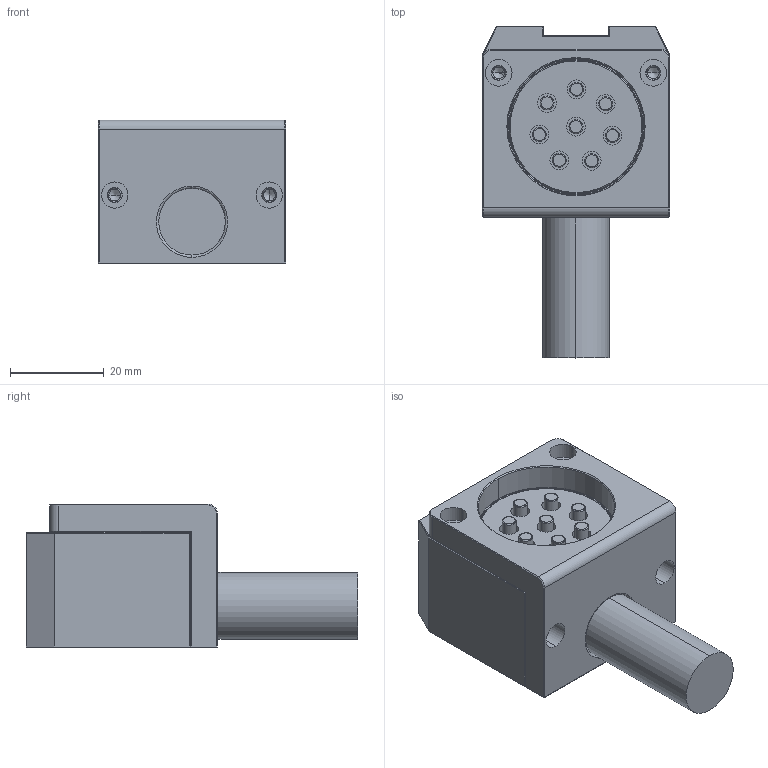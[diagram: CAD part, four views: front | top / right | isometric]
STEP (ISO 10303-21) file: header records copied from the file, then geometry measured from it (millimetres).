
FILE_DESCRIPTION (( 'STEP AP203' ), '1' );
FILE_NAME ('QCSM-08G-1000.STEP', '2024-07-30T09:29:49', ( '微软用户' ), ( '微软中国' ), 'SwSTEP 2.0', 'SolidWorks 2018', '' );
FILE_SCHEMA (( 'CONFIG_CONTROL_DESIGN' ));
Length unit declared in the file: millimetre
Products named in the file (1): QCSM-08G-1000
Bounding box: 40 x 70.8 x 30.7 mm (x, y, z)
Volume: 42665.7 mm3; surface area: 14640.3 mm2
Topology: 6 solids, 7 shells, 381 faces, 899 edges, 546 vertices
Faces by surface type: plane 151, cylinder 146, cone 62, bspline 22
Entity records: 12095 total; most frequent: CARTESIAN_POINT 3440, DIRECTION 1811, ORIENTED_EDGE 1746, EDGE_CURVE 873, AXIS2_PLACEMENT_3D 678, VERTEX_POINT 544, LINE 455, VECTOR 455
